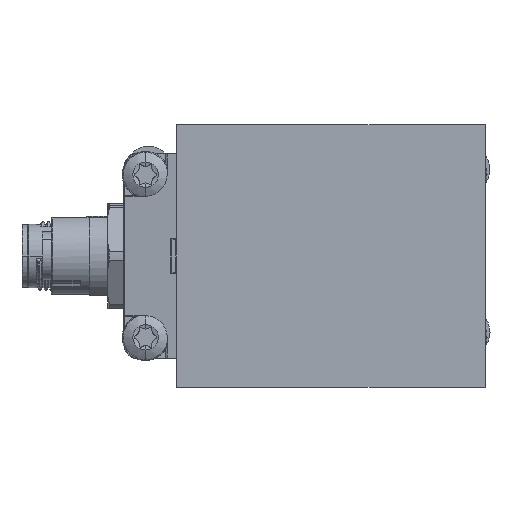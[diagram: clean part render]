
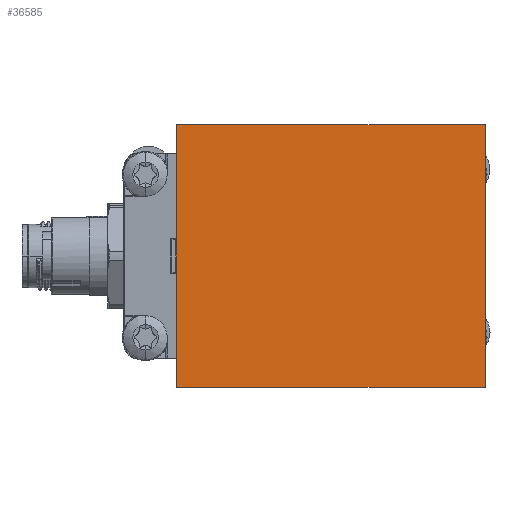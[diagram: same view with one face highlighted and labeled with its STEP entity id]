
A CAD part, front view. The second image highlights one B-rep face of the part: STEP entity #36585.
In plain terms, the highlighted planar face has unit normal (0, -1, 0).
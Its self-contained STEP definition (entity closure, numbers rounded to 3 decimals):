
#6355 = VERTEX_POINT ( 'NONE', #85563 ) ;
#7193 = VECTOR ( 'NONE', #122677, 1000. ) ;
#8863 = LINE ( 'NONE', #102699, #68413 ) ;
#12733 = LINE ( 'NONE', #120225, #107241 ) ;
#13041 = ORIENTED_EDGE ( 'NONE', *, *, #58041, .F. ) ;
#25879 = LINE ( 'NONE', #109695, #52085 ) ;
#27143 = DIRECTION ( 'NONE',  ( 0., 1., 0. ) ) ;
#33487 = CARTESIAN_POINT ( 'NONE',  ( 0., -22.5, 22.5 ) ) ;
#35680 = DIRECTION ( 'NONE',  ( 0., 0., -1. ) ) ;
#36585 = ADVANCED_FACE ( 'NONE', ( #91299 ), #37910, .F. ) ;
#37910 = PLANE ( 'NONE',  #83346 ) ;
#40073 = EDGE_CURVE ( 'NONE', #126851, #64548, #25879, .T. ) ;
#41959 = DIRECTION ( 'NONE',  ( 0., 0., -1. ) ) ;
#52085 = VECTOR ( 'NONE', #132663, 1000. ) ;
#58041 = EDGE_CURVE ( 'NONE', #6355, #122487, #96577, .T. ) ;
#64548 = VERTEX_POINT ( 'NONE', #107212 ) ;
#68413 = VECTOR ( 'NONE', #35680, 1000. ) ;
#83346 = AXIS2_PLACEMENT_3D ( 'NONE', #94231, #27143, #105417 ) ;
#83793 = EDGE_CURVE ( 'NONE', #64548, #122487, #12733, .T. ) ;
#85563 = CARTESIAN_POINT ( 'NONE',  ( 0., -22.5, -22.5 ) ) ;
#91299 = FACE_OUTER_BOUND ( 'NONE', #102944, .T. ) ;
#94231 = CARTESIAN_POINT ( 'NONE',  ( 0., -22.5, 22.5 ) ) ;
#96577 = LINE ( 'NONE', #111452, #7193 ) ;
#102699 = CARTESIAN_POINT ( 'NONE',  ( 0., -22.5, 22.5 ) ) ;
#102944 = EDGE_LOOP ( 'NONE', ( #124844, #13041, #105932, #144713 ) ) ;
#105417 = DIRECTION ( 'NONE',  ( 0., 0., 1. ) ) ;
#105932 = ORIENTED_EDGE ( 'NONE', *, *, #132426, .F. ) ;
#107212 = CARTESIAN_POINT ( 'NONE',  ( -53., -22.5, 22.5 ) ) ;
#107241 = VECTOR ( 'NONE', #41959, 1000. ) ;
#109695 = CARTESIAN_POINT ( 'NONE',  ( 1.414, -22.5, 22.5 ) ) ;
#111452 = CARTESIAN_POINT ( 'NONE',  ( 1.414, -22.5, -22.5 ) ) ;
#112287 = CARTESIAN_POINT ( 'NONE',  ( -53., -22.5, -22.5 ) ) ;
#120225 = CARTESIAN_POINT ( 'NONE',  ( -53., -22.5, 22.5 ) ) ;
#122487 = VERTEX_POINT ( 'NONE', #112287 ) ;
#122677 = DIRECTION ( 'NONE',  ( -1., 0., 0. ) ) ;
#124844 = ORIENTED_EDGE ( 'NONE', *, *, #83793, .T. ) ;
#126851 = VERTEX_POINT ( 'NONE', #33487 ) ;
#132426 = EDGE_CURVE ( 'NONE', #126851, #6355, #8863, .T. ) ;
#132663 = DIRECTION ( 'NONE',  ( -1., 0., 0. ) ) ;
#144713 = ORIENTED_EDGE ( 'NONE', *, *, #40073, .T. ) ;
